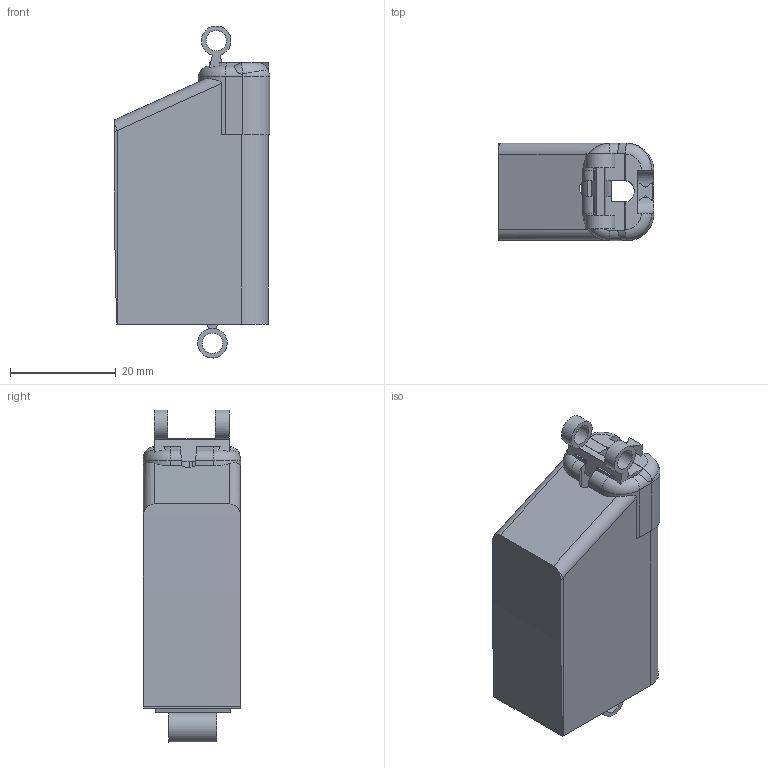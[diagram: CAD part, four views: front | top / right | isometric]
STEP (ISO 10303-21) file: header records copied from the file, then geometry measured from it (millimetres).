
FILE_DESCRIPTION(/* description */ ('STEP AP242 Edition 2','CAx-IF Rec.Pracs.---Representation and Presentation of Product Manufacturing Information (PMI)---4.0---2014-10-13','CAx-IF Rec.Pracs.---3D Tessellated Geometry---0.4---2014-09-14','2;1','CAx-IF Rec.Pracs.---User Defined Attributes---1.5---2016-08-15'),/* implementation_level */ '2;1');
FILE_NAME(/* name */ 'Main - Thumb Bih',/* time_stamp */ '2026-06-25T16:15:31Z',/* author */ (''),/* organization */ (''),/* preprocessor_version */ 'ST-DEVELOPER v20',/* originating_system */ 'ONSHAPE BY PTC INC, 1.216',/* authorisation */ ' ');
FILE_SCHEMA (('AP242_MANAGED_MODEL_BASED_3D_ENGINEERING_MIM_LF { 1 0 10303 442 3 1 4 }'));
Length unit declared in the file: metre
Products named in the file (1): Thumb Bih
Bounding box: 29.47 x 18.43 x 62.84 mm (x, y, z)
Volume: 22135.4 mm3; surface area: 6969.6 mm2
Topology: 1 solids, 1 shells, 116 faces, 333 edges, 216 vertices
Faces by surface type: plane 70, cylinder 35, torus 6, bspline 3, cone 2
Full cylindrical faces by diameter (mm): 3.865 x3
Entity records: 3899 total; most frequent: CARTESIAN_POINT 819, ORIENTED_EDGE 660, DIRECTION 617, EDGE_CURVE 330, VERTEX_POINT 216, LINE 213, VECTOR 213, AXIS2_PLACEMENT_3D 202
